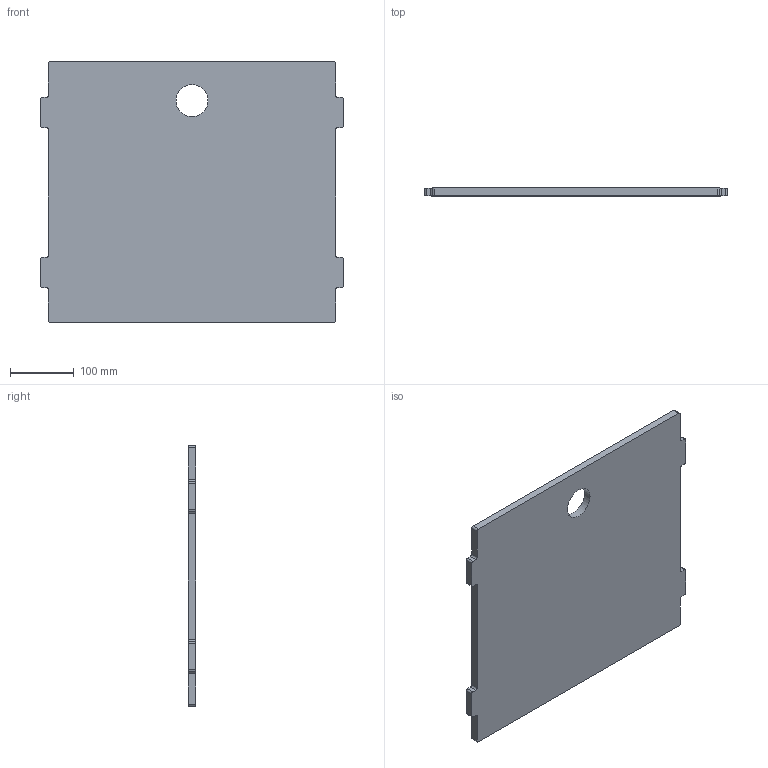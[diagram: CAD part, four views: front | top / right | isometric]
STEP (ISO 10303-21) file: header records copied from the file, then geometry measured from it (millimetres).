
FILE_DESCRIPTION(/* description */ (''),/* implementation_level */ '2;1');
FILE_NAME(/* name */ 'E:\Panel4.stp',/* time_stamp */ '2015-03-19T21:40:28+08:00',/* author */ ('s41632'),/* organization */ (''),/* preprocessor_version */ 'ST-DEVELOPER v15.2',/* originating_system */ 'Autodesk Inventor 2014',/* authorisation */ '');
FILE_SCHEMA (('AUTOMOTIVE_DESIGN { 1 0 10303 214 3 1 1 }'));
Length unit declared in the file: millimetre
Products named in the file (1): Panel4
Bounding box: 474 x 12 x 407.9 mm (x, y, z)
Volume: 2206653.3 mm3; surface area: 391093.1 mm2
Topology: 1 solids, 1 shells, 43 faces, 123 edges, 82 vertices
Faces by surface type: plane 22, cylinder 21
Full cylindrical faces by diameter (mm): 50 x1
Entity records: 1442 total; most frequent: DIRECTION 252, CARTESIAN_POINT 248, ORIENTED_EDGE 244, EDGE_CURVE 122, AXIS2_PLACEMENT_3D 86, VERTEX_POINT 82, LINE 80, VECTOR 80
